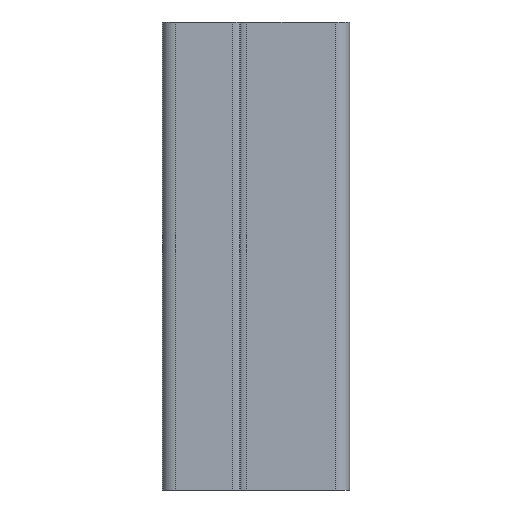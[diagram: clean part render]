
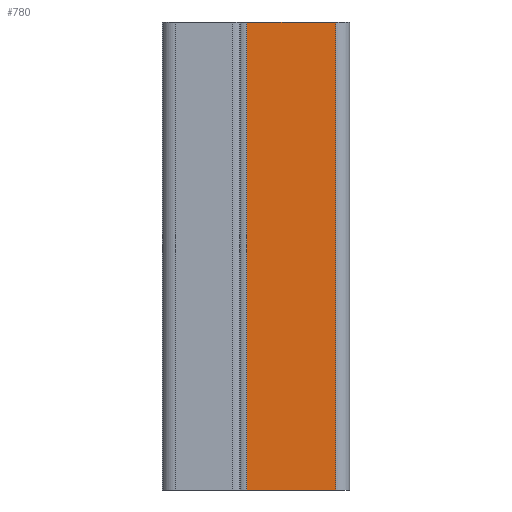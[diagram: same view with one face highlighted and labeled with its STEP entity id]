
A CAD part, left-side view. The second image highlights one B-rep face of the part: STEP entity #780.
In plain terms, the highlighted planar face has unit normal (-1, 0, 0).
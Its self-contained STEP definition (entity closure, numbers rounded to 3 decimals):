
#52 = EDGE_LOOP ( 'NONE', ( #859, #195, #933, #580 ) ) ;
#100 = CARTESIAN_POINT ( 'NONE',  ( -12.5, -9.5, 100. ) ) ;
#195 = ORIENTED_EDGE ( 'NONE', *, *, #924, .F. ) ;
#204 = CARTESIAN_POINT ( 'NONE',  ( -12.5, 9.5, 100. ) ) ;
#296 = CARTESIAN_POINT ( 'NONE',  ( -12.5, 9.5, 0. ) ) ;
#340 = DIRECTION ( 'NONE',  ( 0., 1., 0. ) ) ;
#405 = CARTESIAN_POINT ( 'NONE',  ( -12.5, -9.5, 0. ) ) ;
#407 = AXIS2_PLACEMENT_3D ( 'NONE', #962, #440, #340 ) ;
#420 = VERTEX_POINT ( 'NONE', #296 ) ;
#428 = DIRECTION ( 'NONE',  ( 0., 0., -1. ) ) ;
#429 = EDGE_CURVE ( 'NONE', #584, #757, #676, .T. ) ;
#440 = DIRECTION ( 'NONE',  ( 1., 0., 0. ) ) ;
#490 = VERTEX_POINT ( 'NONE', #1356 ) ;
#501 = EDGE_CURVE ( 'NONE', #584, #420, #987, .T. ) ;
#508 = CARTESIAN_POINT ( 'NONE',  ( -12.5, -9.5, 100. ) ) ;
#515 = DIRECTION ( 'NONE',  ( 0., 0., -1. ) ) ;
#552 = PLANE ( 'NONE',  #407 ) ;
#553 = VECTOR ( 'NONE', #515, 1000. ) ;
#575 = FACE_OUTER_BOUND ( 'NONE', #52, .T. ) ;
#580 = ORIENTED_EDGE ( 'NONE', *, *, #501, .T. ) ;
#584 = VERTEX_POINT ( 'NONE', #671 ) ;
#611 = CARTESIAN_POINT ( 'NONE',  ( -12.5, -9.5, 100. ) ) ;
#671 = CARTESIAN_POINT ( 'NONE',  ( -12.5, 9.5, 100. ) ) ;
#676 = LINE ( 'NONE', #508, #1314 ) ;
#756 = LINE ( 'NONE', #405, #1195 ) ;
#757 = VERTEX_POINT ( 'NONE', #100 ) ;
#780 = ADVANCED_FACE ( 'NONE', ( #575 ), #552, .F. ) ;
#859 = ORIENTED_EDGE ( 'NONE', *, *, #948, .T. ) ;
#863 = VECTOR ( 'NONE', #428, 1000. ) ;
#924 = EDGE_CURVE ( 'NONE', #757, #490, #1048, .T. ) ;
#933 = ORIENTED_EDGE ( 'NONE', *, *, #429, .F. ) ;
#948 = EDGE_CURVE ( 'NONE', #420, #490, #756, .T. ) ;
#962 = CARTESIAN_POINT ( 'NONE',  ( -12.5, -9.5, 100. ) ) ;
#987 = LINE ( 'NONE', #204, #863 ) ;
#1048 = LINE ( 'NONE', #611, #553 ) ;
#1144 = DIRECTION ( 'NONE',  ( 0., -1., 0. ) ) ;
#1195 = VECTOR ( 'NONE', #1254, 1000. ) ;
#1254 = DIRECTION ( 'NONE',  ( 0., -1., 0. ) ) ;
#1314 = VECTOR ( 'NONE', #1144, 1000. ) ;
#1356 = CARTESIAN_POINT ( 'NONE',  ( -12.5, -9.5, 0. ) ) ;
